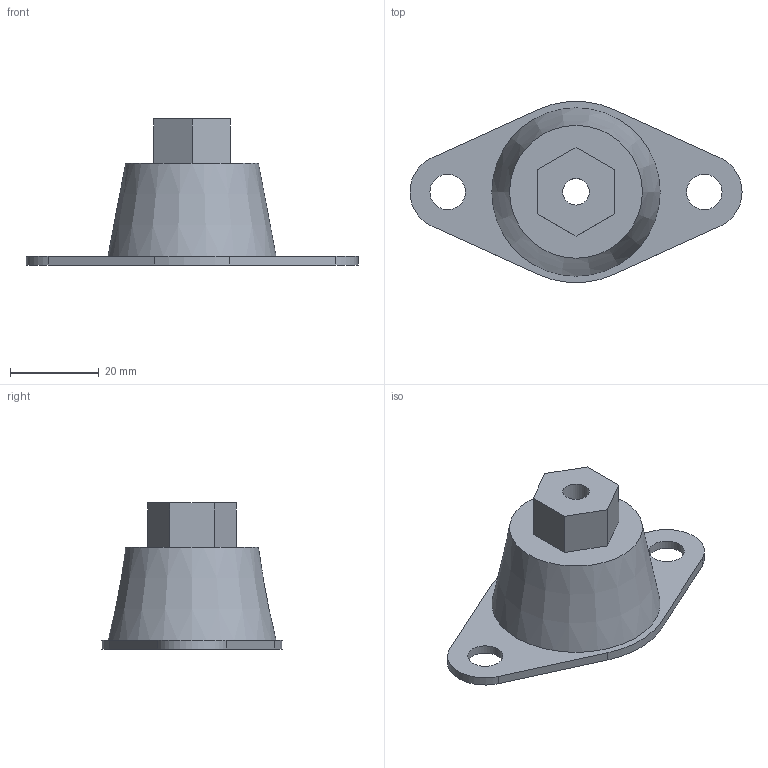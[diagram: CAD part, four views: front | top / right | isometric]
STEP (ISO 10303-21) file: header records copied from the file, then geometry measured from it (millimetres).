
FILE_DESCRIPTION(/* description */ (''),/* implementation_level */ '2;1');
FILE_NAME(/* name */ 'Z:\Output\SDZ 1-01454-001.stp',/* time_stamp */ '2017-05-05T17:03:28+02:00',/* author */ ('engineering1'),/* organization */ (''),/* preprocessor_version */ 'ST-DEVELOPER v16.5',/* originating_system */ 'Autodesk Inventor 2017',/* authorisation */ '');
FILE_SCHEMA (('AUTOMOTIVE_DESIGN { 1 0 10303 214 3 1 1 }'));
Length unit declared in the file: millimetre
Products named in the file (1): SDD-1
Bounding box: 75 x 40.85 x 33 mm (x, y, z)
Volume: 7434 mm3; surface area: 9678.3 mm2
Topology: 1 solids, 2 shells, 35 faces, 84 edges, 57 vertices
Faces by surface type: plane 24, cylinder 9, cone 2
Full cylindrical faces by diameter (mm): 6 x1, 8 x2, 9 x1, 35 x1
Entity records: 1006 total; most frequent: DIRECTION 168, CARTESIAN_POINT 164, ORIENTED_EDGE 148, EDGE_CURVE 74, AXIS2_PLACEMENT_3D 58, EDGE_LOOP 54, VERTEX_POINT 54, LINE 52
